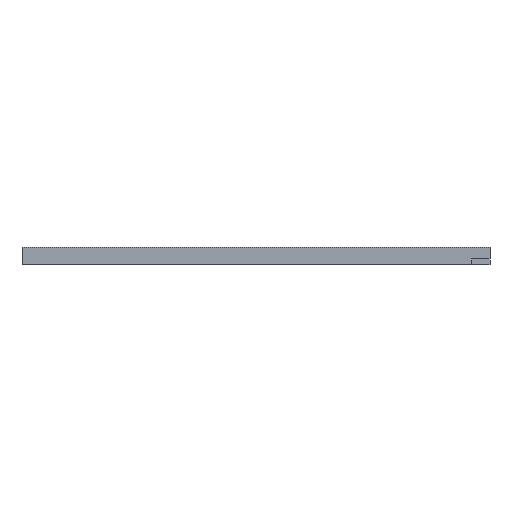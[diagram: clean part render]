
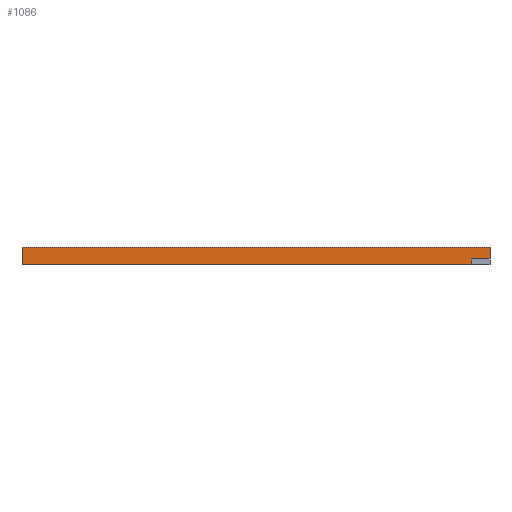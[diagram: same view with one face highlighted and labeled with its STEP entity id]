
A CAD part, front view. The second image highlights one B-rep face of the part: STEP entity #1086.
In plain terms, the highlighted planar face has unit normal (0, -1, 0).
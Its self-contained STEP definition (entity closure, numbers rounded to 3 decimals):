
#40 = EDGE_CURVE ( 'NONE', #1322, #806, #1193, .T. ) ;
#91 = DIRECTION ( 'NONE',  ( 0., 0., 1. ) ) ;
#189 = LINE ( 'NONE', #1198, #922 ) ;
#265 = PLANE ( 'NONE',  #1089 ) ;
#281 = CARTESIAN_POINT ( 'NONE',  ( 400., 0., 15. ) ) ;
#295 = VERTEX_POINT ( 'NONE', #427 ) ;
#339 = ORIENTED_EDGE ( 'NONE', *, *, #418, .F. ) ;
#399 = DIRECTION ( 'NONE',  ( 1., 0., 0. ) ) ;
#418 = EDGE_CURVE ( 'NONE', #1322, #1072, #1816, .T. ) ;
#427 = CARTESIAN_POINT ( 'NONE',  ( 384., 0., 5. ) ) ;
#552 = ORIENTED_EDGE ( 'NONE', *, *, #40, .T. ) ;
#610 = EDGE_CURVE ( 'NONE', #295, #628, #765, .T. ) ;
#628 = VERTEX_POINT ( 'NONE', #1910 ) ;
#693 = VECTOR ( 'NONE', #1971, 1000. ) ;
#762 = CARTESIAN_POINT ( 'NONE',  ( 0., 0., 0. ) ) ;
#765 = LINE ( 'NONE', #786, #1137 ) ;
#786 = CARTESIAN_POINT ( 'NONE',  ( 0., 0., 5. ) ) ;
#806 = VERTEX_POINT ( 'NONE', #762 ) ;
#808 = EDGE_LOOP ( 'NONE', ( #2022, #1734, #1425, #339, #552, #1057 ) ) ;
#899 = FACE_OUTER_BOUND ( 'NONE', #808, .T. ) ;
#922 = VECTOR ( 'NONE', #1525, 1000. ) ;
#990 = EDGE_CURVE ( 'NONE', #1565, #295, #189, .T. ) ;
#1048 = CARTESIAN_POINT ( 'NONE',  ( 0., 0., 15. ) ) ;
#1057 = ORIENTED_EDGE ( 'NONE', *, *, #1830, .T. ) ;
#1072 = VERTEX_POINT ( 'NONE', #1361 ) ;
#1086 = ADVANCED_FACE ( 'NONE', ( #899 ), #265, .F. ) ;
#1089 = AXIS2_PLACEMENT_3D ( 'NONE', #1048, #1991, #91 ) ;
#1137 = VECTOR ( 'NONE', #1451, 1000. ) ;
#1189 = LINE ( 'NONE', #281, #693 ) ;
#1193 = LINE ( 'NONE', #1570, #1312 ) ;
#1195 = CARTESIAN_POINT ( 'NONE',  ( 0., 0., 15. ) ) ;
#1198 = CARTESIAN_POINT ( 'NONE',  ( 384., 0., -625.281 ) ) ;
#1234 = DIRECTION ( 'NONE',  ( 1., 0., 0. ) ) ;
#1253 = DIRECTION ( 'NONE',  ( 0., 0., -1. ) ) ;
#1260 = CARTESIAN_POINT ( 'NONE',  ( 0., 0., 15. ) ) ;
#1298 = EDGE_CURVE ( 'NONE', #1072, #628, #1189, .T. ) ;
#1312 = VECTOR ( 'NONE', #1253, 1000. ) ;
#1322 = VERTEX_POINT ( 'NONE', #1195 ) ;
#1361 = CARTESIAN_POINT ( 'NONE',  ( 400., 0., 15. ) ) ;
#1406 = VECTOR ( 'NONE', #1234, 1000. ) ;
#1425 = ORIENTED_EDGE ( 'NONE', *, *, #1298, .F. ) ;
#1433 = CARTESIAN_POINT ( 'NONE',  ( 384., 0., 0. ) ) ;
#1451 = DIRECTION ( 'NONE',  ( 1., 0., 0. ) ) ;
#1525 = DIRECTION ( 'NONE',  ( 0., 0., 1. ) ) ;
#1565 = VERTEX_POINT ( 'NONE', #1433 ) ;
#1570 = CARTESIAN_POINT ( 'NONE',  ( 0., 0., 15. ) ) ;
#1625 = CARTESIAN_POINT ( 'NONE',  ( 0., 0., 0. ) ) ;
#1734 = ORIENTED_EDGE ( 'NONE', *, *, #610, .T. ) ;
#1741 = VECTOR ( 'NONE', #399, 1000. ) ;
#1816 = LINE ( 'NONE', #1260, #1406 ) ;
#1830 = EDGE_CURVE ( 'NONE', #806, #1565, #1939, .T. ) ;
#1910 = CARTESIAN_POINT ( 'NONE',  ( 400., 0., 5. ) ) ;
#1939 = LINE ( 'NONE', #1625, #1741 ) ;
#1971 = DIRECTION ( 'NONE',  ( 0., 0., -1. ) ) ;
#1991 = DIRECTION ( 'NONE',  ( 0., 1., 0. ) ) ;
#2022 = ORIENTED_EDGE ( 'NONE', *, *, #990, .T. ) ;
